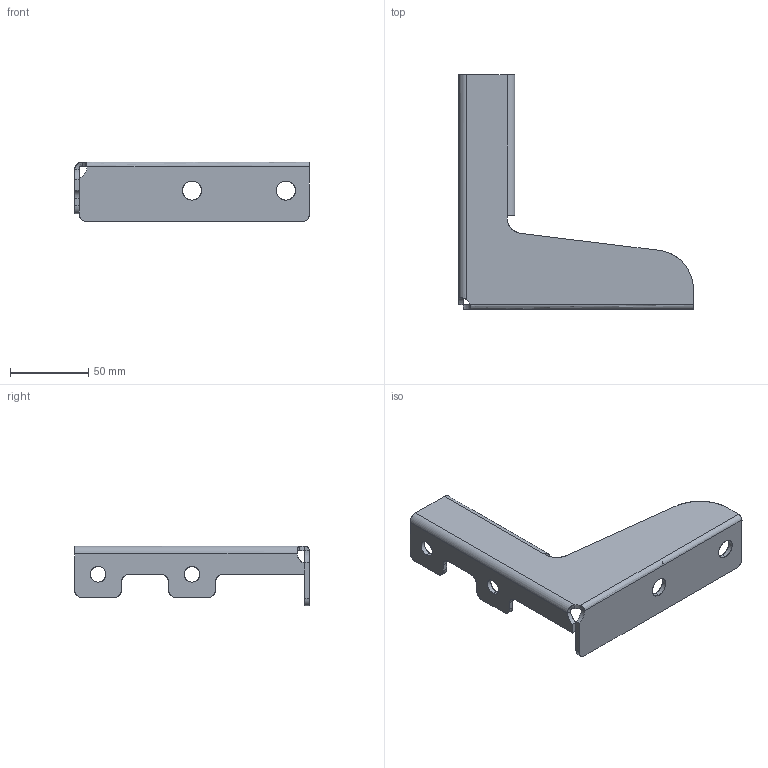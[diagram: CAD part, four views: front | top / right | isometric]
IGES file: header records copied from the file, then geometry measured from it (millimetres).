
Start section: SolidWorks IGES file using analytic representation for surfaces
Global section: file name: C:\Users\sr-d12\Desktop\20230331Rev3\Œ³DATA\J3ASD.IGS; native system: SolidWorks 2019; preprocessor: SolidWorks 2019; author: nakano; date: 230331.142012; units: millimetre
Bounding box: 150 x 150 x 38.19 mm (x, y, z)
Surface area: 42124.3 mm2 (no closed solid volume)
Topology: 0 solids, 0 shells, 73 faces, 1092 edges, 1092 vertices
Faces by surface type: bspline 37, revolution 36
